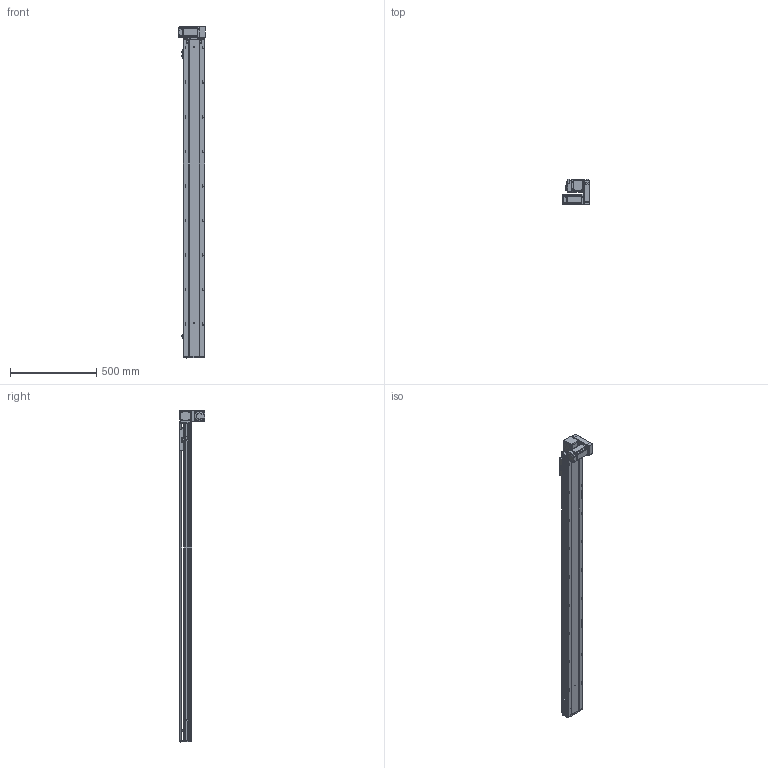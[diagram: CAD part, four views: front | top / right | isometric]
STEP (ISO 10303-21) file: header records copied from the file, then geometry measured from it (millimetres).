
FILE_DESCRIPTION (( 'STEP AP203' ), '1' );
FILE_NAME ('RY120-T-300-DR.SLDASM_1600.step', '2021-03-01T03:36:44', ( '盈信电脑' ), ( '东莞市道滘镇水果街19号' ), 'SwSTEP 2.0', 'SolidWorks 2012', '' );
FILE_SCHEMA (( 'CONFIG_CONTROL_DESIGN' ));
Length unit declared in the file: millimetre
Products named in the file (17): RY120-T主同步轮轴承压盖; RY120-T-300-DR.SLDASM_1600; 15; RY120-T萇儂欶; RY120-T萇儂假蚾啣; RY120-T蹟翐M4; 滅袉蝶18-10; RY120-T肮祭湍揤踡輸2; RY120-T翋肮祭謫裔啣; RY120-T翋肮祭盓傅釱; RY120外置感应片(140共用）; RY120-T肮祭湍揤踡輸1; 覜茼ん672; RY120肮祭湍臏賑輸; RY120綴裔啣; RY120-T-300-DR倰第奻裔啣_1600; RY120-T-300-DR倰第菁釱_1600
Assembly tree (22 placements, depth 2):
  RY120-T-300-DR.SLDASM_1600
    RY120-T-300-DR倰第菁釱_1600
    RY120-T-300-DR倰第奻裔啣_1600
    RY120肮祭湍臏賑輸
    RY120綴裔啣
    覜茼ん672  x3
    RY120外置感应片(140共用）
    RY120-T肮祭湍揤踡輸1
    RY120-T肮祭湍揤踡輸2
    RY120-T翋肮祭盓傅釱
    滅袉蝶18-10  x2
    RY120-T翋肮祭謫裔啣
    15
    RY120-T萇儂假蚾啣
    RY120-T蹟翐M4  x4
    RY120-T萇儂欶
    RY120-T主同步轮轴承压盖
Bounding box: 155.5 x 150 x 1921 mm (x, y, z)
Volume: 4931577.4 mm3; surface area: 1870950 mm2
Topology: 23 solids, 23 shells, 2976 faces, 8124 edges, 5186 vertices
Faces by surface type: plane 1432, cylinder 1162, cone 293, bspline 89
Entity records: 95093 total; most frequent: CARTESIAN_POINT 24480, ORIENTED_EDGE 14592, DIRECTION 13806, EDGE_CURVE 7296, VERTEX_POINT 4773, AXIS2_PLACEMENT_3D 4663, LINE 4480, VECTOR 4480
